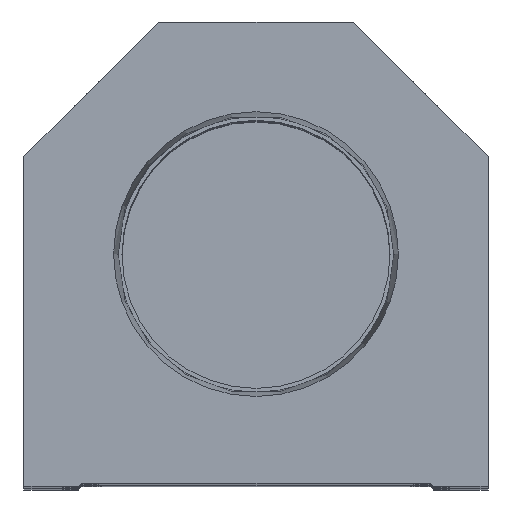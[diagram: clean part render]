
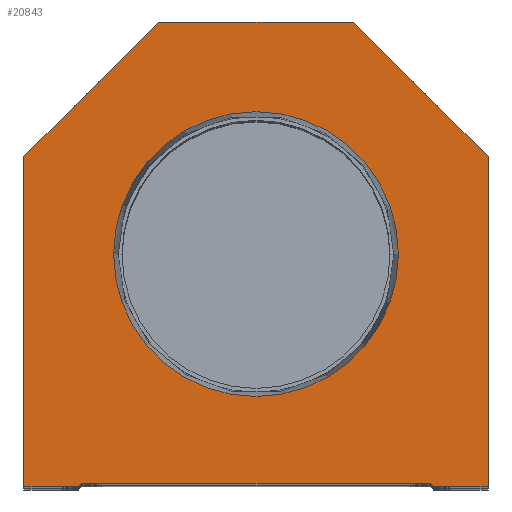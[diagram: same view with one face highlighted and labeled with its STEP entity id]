
A CAD part, top view. The second image highlights one B-rep face of the part: STEP entity #20843.
In plain terms, the highlighted planar face has unit normal (0, 0, 1).
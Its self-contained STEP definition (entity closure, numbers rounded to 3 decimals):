
#132 = AXIS2_PLACEMENT_3D ( 'NONE', #8058, #19669, #18257 ) ;
#239 = DIRECTION ( 'NONE',  ( 0.707, -0.707, 0. ) ) ;
#556 = VERTEX_POINT ( 'NONE', #17904 ) ;
#695 = CARTESIAN_POINT ( 'NONE',  ( -14.55, 14.55, 0. ) ) ;
#2755 = VERTEX_POINT ( 'NONE', #23907 ) ;
#2978 = CIRCLE ( 'NONE', #132, 23.374 ) ;
#3098 = EDGE_CURVE ( 'NONE', #22911, #16134, #17719, .T. ) ;
#3350 = VECTOR ( 'NONE', #8253, 1000. ) ;
#3739 = ORIENTED_EDGE ( 'NONE', *, *, #3098, .T. ) ;
#3981 = VERTEX_POINT ( 'NONE', #19791 ) ;
#4293 = AXIS2_PLACEMENT_3D ( 'NONE', #13005, #16484, #22347 ) ;
#4834 = VECTOR ( 'NONE', #20363, 1000. ) ;
#5394 = VECTOR ( 'NONE', #24055, 1000. ) ;
#5687 = CARTESIAN_POINT ( 'NONE',  ( -16., 76.2, 0. ) ) ;
#6552 = LINE ( 'NONE', #695, #8696 ) ;
#6813 = DIRECTION ( 'NONE',  ( 1., 0., 0. ) ) ;
#7197 = VERTEX_POINT ( 'NONE', #8428 ) ;
#7312 = EDGE_LOOP ( 'NONE', ( #7773, #15276 ) ) ;
#7773 = ORIENTED_EDGE ( 'NONE', *, *, #23341, .F. ) ;
#7851 = EDGE_CURVE ( 'NONE', #7197, #20808, #21773, .T. ) ;
#8011 = EDGE_CURVE ( 'NONE', #23350, #2755, #8575, .T. ) ;
#8058 = CARTESIAN_POINT ( 'NONE',  ( 0., 38.1, 0. ) ) ;
#8247 = EDGE_CURVE ( 'NONE', #3981, #556, #2978, .T. ) ;
#8248 = DIRECTION ( 'NONE',  ( 0., 1., 0. ) ) ;
#8253 = DIRECTION ( 'NONE',  ( 1., 0., 0. ) ) ;
#8428 = CARTESIAN_POINT ( 'NONE',  ( -28.6, 0.5, 0. ) ) ;
#8535 = VERTEX_POINT ( 'NONE', #10059 ) ;
#8575 = LINE ( 'NONE', #23796, #5394 ) ;
#8639 = VERTEX_POINT ( 'NONE', #23593 ) ;
#8696 = VECTOR ( 'NONE', #24065, 1000. ) ;
#8811 = CIRCLE ( 'NONE', #15743, 23.374 ) ;
#8926 = EDGE_CURVE ( 'NONE', #8535, #8639, #12601, .T. ) ;
#9110 = CARTESIAN_POINT ( 'NONE',  ( 38.1, 54.1, 0. ) ) ;
#9132 = EDGE_CURVE ( 'NONE', #2755, #11631, #16526, .T. ) ;
#10059 = CARTESIAN_POINT ( 'NONE',  ( 29.1, 0., 0. ) ) ;
#10092 = CARTESIAN_POINT ( 'NONE',  ( -38.1, 0., 0. ) ) ;
#10408 = EDGE_LOOP ( 'NONE', ( #15587, #14890, #18444, #14384, #10576, #20907, #12266, #12740, #17154, #3739 ) ) ;
#10576 = ORIENTED_EDGE ( 'NONE', *, *, #8926, .T. ) ;
#10582 = EDGE_CURVE ( 'NONE', #20808, #8535, #17840, .T. ) ;
#11014 = VECTOR ( 'NONE', #22676, 1000. ) ;
#11173 = VECTOR ( 'NONE', #23556, 1000. ) ;
#11297 = EDGE_CURVE ( 'NONE', #14204, #7197, #6552, .T. ) ;
#11631 = VERTEX_POINT ( 'NONE', #5687 ) ;
#12001 = CARTESIAN_POINT ( 'NONE',  ( 14.55, 14.55, 0. ) ) ;
#12211 = LINE ( 'NONE', #19853, #15298 ) ;
#12266 = ORIENTED_EDGE ( 'NONE', *, *, #8011, .T. ) ;
#12450 = LINE ( 'NONE', #16632, #23363 ) ;
#12583 = CARTESIAN_POINT ( 'NONE',  ( -28.6, 0.5, 0. ) ) ;
#12601 = LINE ( 'NONE', #14883, #11014 ) ;
#12740 = ORIENTED_EDGE ( 'NONE', *, *, #9132, .T. ) ;
#12837 = DIRECTION ( 'NONE',  ( 1., 0., 0. ) ) ;
#13005 = CARTESIAN_POINT ( 'NONE',  ( 0., 0., 0. ) ) ;
#13493 = EDGE_CURVE ( 'NONE', #11631, #22911, #13846, .T. ) ;
#13846 = LINE ( 'NONE', #15510, #11173 ) ;
#14204 = VERTEX_POINT ( 'NONE', #23513 ) ;
#14321 = VECTOR ( 'NONE', #18550, 1000. ) ;
#14384 = ORIENTED_EDGE ( 'NONE', *, *, #10582, .T. ) ;
#14616 = CARTESIAN_POINT ( 'NONE',  ( 0., 38.1, 0. ) ) ;
#14883 = CARTESIAN_POINT ( 'NONE',  ( 28.6, 0., 0. ) ) ;
#14890 = ORIENTED_EDGE ( 'NONE', *, *, #11297, .T. ) ;
#15276 = ORIENTED_EDGE ( 'NONE', *, *, #8247, .F. ) ;
#15298 = VECTOR ( 'NONE', #8248, 1000. ) ;
#15510 = CARTESIAN_POINT ( 'NONE',  ( -38.1, 54.1, 0. ) ) ;
#15585 = VECTOR ( 'NONE', #239, 1000. ) ;
#15587 = ORIENTED_EDGE ( 'NONE', *, *, #18657, .T. ) ;
#15743 = AXIS2_PLACEMENT_3D ( 'NONE', #14616, #20606, #12837 ) ;
#16134 = VERTEX_POINT ( 'NONE', #10092 ) ;
#16484 = DIRECTION ( 'NONE',  ( 0., 0., 1. ) ) ;
#16526 = LINE ( 'NONE', #24072, #14321 ) ;
#16632 = CARTESIAN_POINT ( 'NONE',  ( -28.6, 0., 0. ) ) ;
#16942 = CARTESIAN_POINT ( 'NONE',  ( -38.1, 54.1, 0. ) ) ;
#17154 = ORIENTED_EDGE ( 'NONE', *, *, #13493, .T. ) ;
#17514 = CARTESIAN_POINT ( 'NONE',  ( 28.6, 0.5, 0. ) ) ;
#17719 = LINE ( 'NONE', #19887, #4834 ) ;
#17840 = LINE ( 'NONE', #12001, #15585 ) ;
#17904 = CARTESIAN_POINT ( 'NONE',  ( 23.374, 38.1, 0. ) ) ;
#18257 = DIRECTION ( 'NONE',  ( 1., 0., 0. ) ) ;
#18444 = ORIENTED_EDGE ( 'NONE', *, *, #7851, .T. ) ;
#18550 = DIRECTION ( 'NONE',  ( -1., 0., 0. ) ) ;
#18657 = EDGE_CURVE ( 'NONE', #16134, #14204, #12450, .T. ) ;
#18998 = PLANE ( 'NONE',  #4293 ) ;
#19669 = DIRECTION ( 'NONE',  ( 0., 0., 1. ) ) ;
#19791 = CARTESIAN_POINT ( 'NONE',  ( -23.374, 38.1, 0. ) ) ;
#19853 = CARTESIAN_POINT ( 'NONE',  ( 38.1, 0., 0. ) ) ;
#19887 = CARTESIAN_POINT ( 'NONE',  ( -38.1, 0., 0. ) ) ;
#20363 = DIRECTION ( 'NONE',  ( 0., -1., 0. ) ) ;
#20409 = EDGE_CURVE ( 'NONE', #8639, #23350, #12211, .T. ) ;
#20606 = DIRECTION ( 'NONE',  ( 0., 0., 1. ) ) ;
#20808 = VERTEX_POINT ( 'NONE', #17514 ) ;
#20843 = ADVANCED_FACE ( 'NONE', ( #22719, #20921 ), #18998, .T. ) ;
#20907 = ORIENTED_EDGE ( 'NONE', *, *, #20409, .T. ) ;
#20921 = FACE_OUTER_BOUND ( 'NONE', #10408, .T. ) ;
#21773 = LINE ( 'NONE', #12583, #3350 ) ;
#22347 = DIRECTION ( 'NONE',  ( 1., 0., 0. ) ) ;
#22676 = DIRECTION ( 'NONE',  ( 1., 0., 0. ) ) ;
#22719 = FACE_BOUND ( 'NONE', #7312, .T. ) ;
#22911 = VERTEX_POINT ( 'NONE', #16942 ) ;
#23341 = EDGE_CURVE ( 'NONE', #556, #3981, #8811, .T. ) ;
#23350 = VERTEX_POINT ( 'NONE', #9110 ) ;
#23363 = VECTOR ( 'NONE', #6813, 1000. ) ;
#23513 = CARTESIAN_POINT ( 'NONE',  ( -29.1, 0., 0. ) ) ;
#23556 = DIRECTION ( 'NONE',  ( -0.707, -0.707, 0. ) ) ;
#23593 = CARTESIAN_POINT ( 'NONE',  ( 38.1, 0., 0. ) ) ;
#23796 = CARTESIAN_POINT ( 'NONE',  ( 38.1, 54.1, 0. ) ) ;
#23907 = CARTESIAN_POINT ( 'NONE',  ( 16., 76.2, 0. ) ) ;
#24055 = DIRECTION ( 'NONE',  ( -0.707, 0.707, 0. ) ) ;
#24065 = DIRECTION ( 'NONE',  ( 0.707, 0.707, 0. ) ) ;
#24072 = CARTESIAN_POINT ( 'NONE',  ( 16., 76.2, 0. ) ) ;
